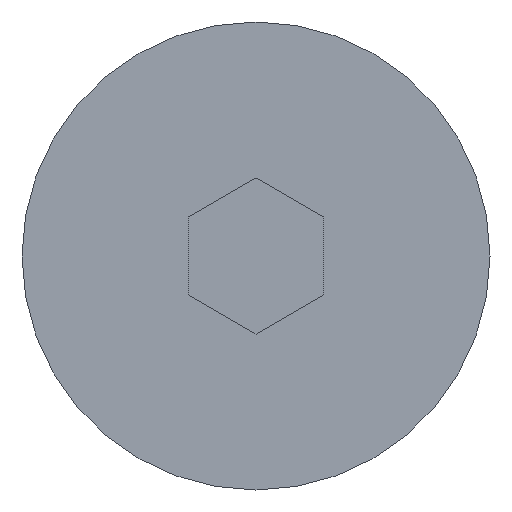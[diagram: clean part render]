
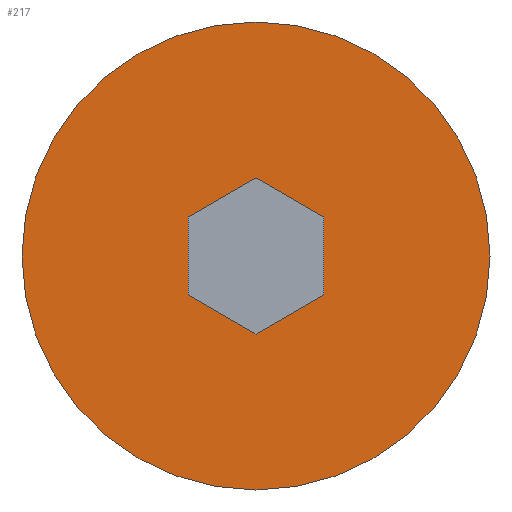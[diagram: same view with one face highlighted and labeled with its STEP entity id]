
A CAD part, left-side view. The second image highlights one B-rep face of the part: STEP entity #217.
In plain terms, the highlighted planar face has unit normal (-1, 0, 0).
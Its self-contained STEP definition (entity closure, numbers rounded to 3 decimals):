
#7 = VERTEX_POINT ( 'NONE', #65 ) ;
#8 = CARTESIAN_POINT ( 'NONE',  ( 0., -3.464, 2. ) ) ;
#11 = LINE ( 'NONE', #340, #321 ) ;
#15 = VERTEX_POINT ( 'NONE', #160 ) ;
#16 = EDGE_CURVE ( 'NONE', #15, #326, #347, .T. ) ;
#21 = CIRCLE ( 'NONE', #290, 12. ) ;
#39 = DIRECTION ( 'NONE',  ( 0., 0., 1. ) ) ;
#41 = AXIS2_PLACEMENT_3D ( 'NONE', #260, #256, #238 ) ;
#45 = DIRECTION ( 'NONE',  ( 0., 0., -1. ) ) ;
#46 = ORIENTED_EDGE ( 'NONE', *, *, #267, .F. ) ;
#54 = ORIENTED_EDGE ( 'NONE', *, *, #462, .F. ) ;
#65 = CARTESIAN_POINT ( 'NONE',  ( 0., 0., 12. ) ) ;
#80 = LINE ( 'NONE', #354, #465 ) ;
#81 = DIRECTION ( 'NONE',  ( -1., 0., 0. ) ) ;
#82 = VERTEX_POINT ( 'NONE', #230 ) ;
#84 = DIRECTION ( 'NONE',  ( 0., -0.866, -0.5 ) ) ;
#86 = CARTESIAN_POINT ( 'NONE',  ( 0., 0., 0. ) ) ;
#88 = CARTESIAN_POINT ( 'NONE',  ( 0., 3.464, 2. ) ) ;
#89 = CARTESIAN_POINT ( 'NONE',  ( 0., -3.464, 2. ) ) ;
#104 = EDGE_CURVE ( 'NONE', #439, #7, #21, .T. ) ;
#110 = DIRECTION ( 'NONE',  ( 0., 0.866, 0.5 ) ) ;
#115 = DIRECTION ( 'NONE',  ( 0., 0.866, -0.5 ) ) ;
#116 = EDGE_CURVE ( 'NONE', #286, #365, #312, .T. ) ;
#132 = CARTESIAN_POINT ( 'NONE',  ( 0., 3.464, 2. ) ) ;
#140 = VECTOR ( 'NONE', #373, 1000. ) ;
#141 = CARTESIAN_POINT ( 'NONE',  ( 0., -3.464, -2. ) ) ;
#156 = CARTESIAN_POINT ( 'NONE',  ( 0., 0., -12. ) ) ;
#160 = CARTESIAN_POINT ( 'NONE',  ( 0., 0., -4. ) ) ;
#171 = AXIS2_PLACEMENT_3D ( 'NONE', #351, #310, #39 ) ;
#189 = DIRECTION ( 'NONE',  ( 0., 0., 1. ) ) ;
#205 = EDGE_LOOP ( 'NONE', ( #54, #278, #458, #444, #284, #46 ) ) ;
#217 = ADVANCED_FACE ( 'NONE', ( #272, #483 ), #266, .F. ) ;
#230 = CARTESIAN_POINT ( 'NONE',  ( 0., 3.464, -2. ) ) ;
#232 = DIRECTION ( 'NONE',  ( 0., -0.866, 0.5 ) ) ;
#234 = CARTESIAN_POINT ( 'NONE',  ( 0., -3.464, -2. ) ) ;
#238 = DIRECTION ( 'NONE',  ( 0., 0., -1. ) ) ;
#256 = DIRECTION ( 'NONE',  ( 1., 0., 0. ) ) ;
#260 = CARTESIAN_POINT ( 'NONE',  ( 0., 0., 0. ) ) ;
#263 = ORIENTED_EDGE ( 'NONE', *, *, #327, .T. ) ;
#266 = PLANE ( 'NONE',  #41 ) ;
#267 = EDGE_CURVE ( 'NONE', #319, #82, #461, .T. ) ;
#272 = FACE_BOUND ( 'NONE', #205, .T. ) ;
#278 = ORIENTED_EDGE ( 'NONE', *, *, #116, .F. ) ;
#284 = ORIENTED_EDGE ( 'NONE', *, *, #352, .F. ) ;
#286 = VERTEX_POINT ( 'NONE', #89 ) ;
#290 = AXIS2_PLACEMENT_3D ( 'NONE', #86, #81, #189 ) ;
#299 = CARTESIAN_POINT ( 'NONE',  ( 0., 0., -4. ) ) ;
#310 = DIRECTION ( 'NONE',  ( -1., 0., 0. ) ) ;
#312 = LINE ( 'NONE', #8, #430 ) ;
#319 = VERTEX_POINT ( 'NONE', #88 ) ;
#321 = VECTOR ( 'NONE', #115, 1000. ) ;
#326 = VERTEX_POINT ( 'NONE', #234 ) ;
#327 = EDGE_CURVE ( 'NONE', #7, #439, #358, .T. ) ;
#340 = CARTESIAN_POINT ( 'NONE',  ( 0., 0., 4. ) ) ;
#347 = LINE ( 'NONE', #299, #443 ) ;
#351 = CARTESIAN_POINT ( 'NONE',  ( 0., 0., 0. ) ) ;
#352 = EDGE_CURVE ( 'NONE', #82, #15, #80, .T. ) ;
#354 = CARTESIAN_POINT ( 'NONE',  ( 0., 3.464, -2. ) ) ;
#358 = CIRCLE ( 'NONE', #171, 12. ) ;
#365 = VERTEX_POINT ( 'NONE', #426 ) ;
#373 = DIRECTION ( 'NONE',  ( 0., 0., 1. ) ) ;
#383 = EDGE_CURVE ( 'NONE', #326, #286, #442, .T. ) ;
#426 = CARTESIAN_POINT ( 'NONE',  ( 0., 0., 4. ) ) ;
#430 = VECTOR ( 'NONE', #110, 1000. ) ;
#439 = VERTEX_POINT ( 'NONE', #156 ) ;
#442 = LINE ( 'NONE', #141, #140 ) ;
#443 = VECTOR ( 'NONE', #232, 1000. ) ;
#444 = ORIENTED_EDGE ( 'NONE', *, *, #16, .F. ) ;
#458 = ORIENTED_EDGE ( 'NONE', *, *, #383, .F. ) ;
#461 = LINE ( 'NONE', #132, #478 ) ;
#462 = EDGE_CURVE ( 'NONE', #365, #319, #11, .T. ) ;
#465 = VECTOR ( 'NONE', #84, 1000. ) ;
#478 = VECTOR ( 'NONE', #45, 1000. ) ;
#483 = FACE_OUTER_BOUND ( 'NONE', #507, .T. ) ;
#490 = ORIENTED_EDGE ( 'NONE', *, *, #104, .T. ) ;
#507 = EDGE_LOOP ( 'NONE', ( #263, #490 ) ) ;
